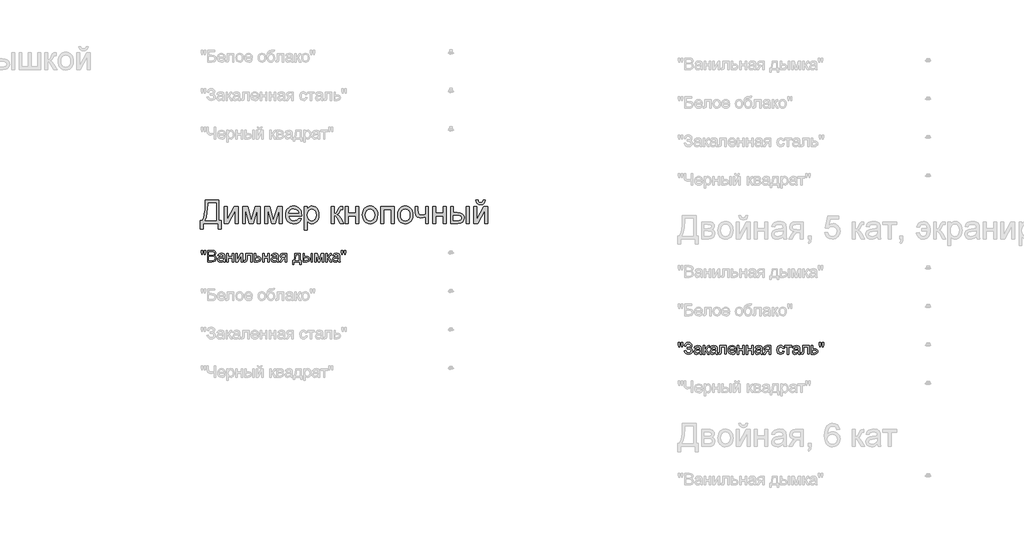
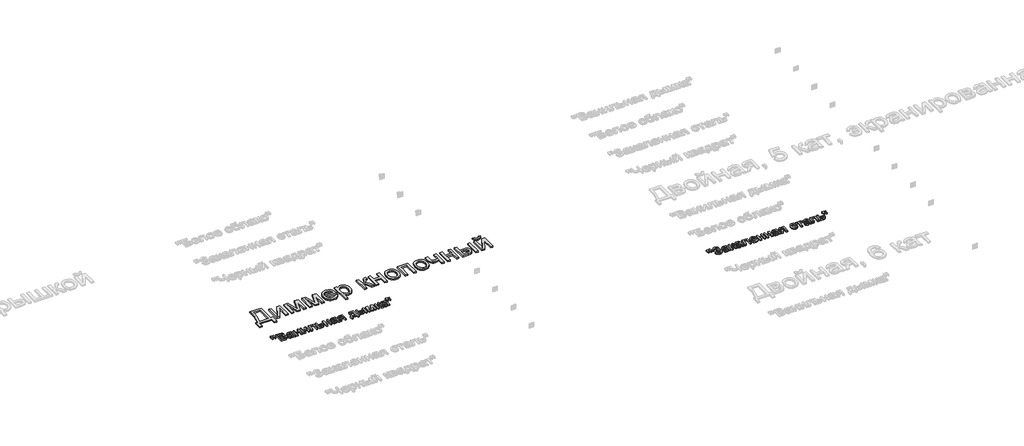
# One storey, part 157 of 168: 3 proxies.
"""IFC4 building model written with IfcOpenShell, lengths in millimetres."""

from ifc_helpers import new_model, si_unit, origin, origin_with_axes, place, context, project, spatial, polyline, outline, extrude, element, save

model = new_model("IFC4")

# Units and contexts
model_context = context("Model", 3, world=origin())
ifc_project = project(units=[si_unit("LENGTHUNIT", "METRE", prefix="MILLI")], contexts=[model_context])

# Site, building, storey
site = spatial("IfcSite", under=ifc_project)
building = spatial("IfcBuilding", under=site)
storey = spatial("IfcBuildingStorey", under=building, Name="Этаж 01", Elevation=0.0)

# Proxies
placement = place(None, origin())
element("IfcBuildingElementProxy", 1, Name="300 мм Arial 2", ObjectType="300 мм Arial 2", at=placement, inside=storey, context=model_context, shape_type="SweptSolid", body=[
    extrude(outline(polyline([(71127.3478389, -10947.0367511), (71306.2856413, -10947.0367511), (71306.2856413, -11210.7345653), (71334.5389786, -11210.7345653), (71334.5389786, -11319.0390246), (71296.8678623, -11319.0390246), (71296.8678623, -11248.4056816), (71103.8033912, -11248.4056816), (71103.8033912, -11319.0390246), (71066.1322749, -11319.0390246), (71066.1322749, -11210.7345653), (71089.6767226, -11210.7345653), (71106.157836, -11176.5629264), (71117.9300598, -11128.4945452), (71124.9933941, -11066.5294217), (71127.3478389, -10990.6675557), (71127.3478389, -10947.0367511)]), holes=[polyline([(71268.614525, -10984.7078674), (71165.0189552, -10984.7078674), (71165.0189552, -10999.8646056), (71157.3670097, -11103.0922935), (71146.0362442, -11162.744359), (71127.3478389, -11210.7345653), (71268.614525, -11210.7345653), (71268.614525, -10984.7078674)])]), origin_with_axes(), (0.0, 0.0, 1.0), 20.0),
    extrude(outline(polyline([(71376.9189844, -11027.0878733), (71414.5901007, -11027.0878733), (71414.5901007, -11195.8721327), (71507.1492107, -11027.0878733), (71555.8567869, -11027.0878733), (71555.8567869, -11248.4056816), (71518.1856706, -11248.4056816), (71518.1856706, -11080.6514918), (71426.2151718, -11248.4056816), (71376.9189844, -11248.4056816), (71376.9189844, -11027.0878733)])), origin_with_axes(), (0.0, 0.0, 1.0), 20.0),
    extrude(outline(polyline([(71612.3634613, -11027.0878733), (71677.1842689, -11027.0878733), (71727.1426438, -11204.2598421), (71781.0005679, -11027.0878733), (71843.0990487, -11027.0878733), (71843.0990487, -11248.4056816), (71805.4279324, -11248.4056816), (71805.4279324, -11070.2036431), (71751.2757027, -11248.4056816), (71701.8323626, -11248.4056816), (71650.0345776, -11061.6687808), (71650.0345776, -11248.4056816), (71612.3634613, -11248.4056816), (71612.3634613, -11027.0878733)])), origin_with_axes(), (0.0, 0.0, 1.0), 20.0),
    extrude(outline(polyline([(71899.6057232, -11027.0878733), (71964.4265307, -11027.0878733), (72014.3849057, -11204.2598421), (72068.2428298, -11027.0878733), (72130.3413105, -11027.0878733), (72130.3413105, -11248.4056816), (72092.6701942, -11248.4056816), (72092.6701942, -11070.2036431), (72038.5179645, -11248.4056816), (71989.0746244, -11248.4056816), (71937.2768395, -11061.6687808), (71937.2768395, -11248.4056816), (71899.6057232, -11248.4056816), (71899.6057232, -11027.0878733)])), origin_with_axes(), (0.0, 0.0, 1.0), 20.0),
    extrude(outline(polyline([(72341.7998814, -11182.481228), (72378.7352337, -11187.1901176), (72365.4271025, -11215.0203905), (72344.1911143, -11235.8241173), (72315.5055158, -11248.7919577), (72279.8485534, -11253.1145711), (72256.4742511, -11251.2498692), (72235.6475317, -11245.6557637), (72217.368395, -11236.3322543), (72201.6368412, -11223.2793413), (72188.9862991, -11206.860308), (72179.9501976, -11187.4384379), (72174.5285367, -11165.013731), (72172.7213164, -11139.5861874), (72174.5469308, -11113.2964203), (72180.023774, -11090.1244531), (72189.151846, -11070.0702859), (72201.9311468, -11053.1339185), (72217.6213139, -11039.6786346), (72235.4819848, -11030.0677174), (72255.5131594, -11024.3011672), (72277.7148378, -11022.3789837), (72299.2014456, -11024.2965686), (72318.6325127, -11030.0493233), (72336.0080392, -11039.6372478), (72351.328025, -11053.0603421), (72363.8337136, -11069.9599213), (72372.7663483, -11089.9773003), (72378.1259291, -11113.1124793), (72379.9124561, -11139.3654582), (72379.6917269, -11149.5190013), (72210.3924327, -11149.5190013), (72216.9131411, -11177.7171562), (72232.0606822, -11198.4473066), (72253.9220698, -11211.1944178), (72280.5843174, -11215.4434548), (72300.6338861, -11213.4752861), (72317.5196697, -11207.5707801), (72331.2416681, -11197.3620547), (72341.7998814, -11182.481228)]), holes=[polyline([(72210.3924327, -11111.847885), (72342.2413398, -11111.847885), (72337.1461741, -11091.945469), (72327.158178, -11077.7084358), (72305.1956228, -11064.464684), (72277.567685, -11060.0501), (72252.1746303, -11063.5725701), (72231.1777654, -11074.1399805), (72216.5820473, -11090.6118968), (72210.3924327, -11111.847885)])]), origin_with_axes(), (0.0, 0.0, 1.0), 20.0),
    extrude(outline(polyline([(72417.5835724, -11333.1656933), (72417.5835724, -11027.0878733), (72455.2546887, -11027.0878733), (72455.2546887, -11064.0232256), (72467.5419473, -11045.8038698), (72481.3007339, -11032.7900442), (72497.3403889, -11024.9817488), (72516.4702527, -11022.3789837), (72541.9460808, -11026.0210155), (72564.2213356, -11036.9471107), (72582.357918, -11054.4950819), (72595.4177288, -11078.0027414), (72603.3087976, -11105.7594379), (72605.9391539, -11136.0545202), (72602.9685068, -11168.271786), (72594.0565655, -11197.0861432), (72579.4884384, -11221.0352611), (72559.5492343, -11238.6568087), (72536.3266834, -11249.5001305), (72511.9085159, -11253.1145711), (72494.590471, -11250.695747), (72479.1302302, -11243.4392746), (72465.8956754, -11232.4855882), (72455.2546887, -11218.975122), (72455.2546887, -11333.1656933), (72417.5835724, -11333.1656933)]), holes=[polyline([(72455.2546887, -11139.512611), (72459.3289818, -11173.2841782), (72471.5518611, -11196.9022022), (72489.5872759, -11210.8081417), (72511.0991755, -11215.4434548), (72532.9605631, -11210.6425948), (72551.4558304, -11196.2400147), (72564.0649858, -11171.7574679), (72568.2680376, -11136.7167078), (72564.1661533, -11103.1290817), (72551.8605006, -11079.1799638), (72533.8526769, -11064.832566), (72512.6442799, -11060.0501), (72491.3531095, -11065.1360686), (72472.655507, -11080.3939744), (72459.6048933, -11105.3455707), (72455.2546887, -11139.512611)])]), origin_with_axes(), (0.0, 0.0, 1.0), 20.0),
    extrude(outline(polyline([(72766.0413982, -11027.0878733), (72803.7125145, -11027.0878733), (72803.7125145, -11121.265664), (72819.0347996, -11119.5734069), (72828.9492194, -11114.4966353), (72837.723205, -11101.2528835), (72849.6241875, -11075.0596854), (72866.8042767, -11041.0306009), (72881.9610149, -11029.9573528), (72909.5153763, -11027.0878733), (72916.7258634, -11027.0878733), (72916.7258634, -11064.9797188), (72906.5723204, -11064.7589896), (72888.1782206, -11068.7321151), (72875.2287744, -11093.5273616), (72860.035248, -11120.345959), (72838.7348804, -11133.4793463), (72850.6726512, -11138.7814455), (72862.5000573, -11148.1394438), (72885.8237758, -11179.0231373), (72926.1436425, -11248.4056816), (72883.3221783, -11248.4056816), (72843.811652, -11180.4946653), (72823.9460242, -11151.7630814), (72814.6570039, -11146.5483542), (72803.7125145, -11144.8101117), (72803.7125145, -11248.4056816), (72766.0413982, -11248.4056816), (72766.0413982, -11027.0878733)])), origin_with_axes(), (0.0, 0.0, 1.0), 20.0),
    extrude(outline(polyline([(72949.6880902, -11027.0878733), (72987.3592065, -11027.0878733), (72987.3592065, -11111.847885), (73086.2458868, -11111.847885), (73086.2458868, -11027.0878733), (73123.9170031, -11027.0878733), (73123.9170031, -11248.4056816), (73086.2458868, -11248.4056816), (73086.2458868, -11149.5190013), (72987.3592065, -11149.5190013), (72987.3592065, -11248.4056816), (72949.6880902, -11248.4056816), (72949.6880902, -11027.0878733)])), origin_with_axes(), (0.0, 0.0, 1.0), 20.0),
    extrude(outline(polyline([(73171.0058985, -11137.7467774), (73173.043045, -11109.0841715), (73179.1544847, -11084.385494), (73189.3402174, -11063.6507451), (73203.6002433, -11046.8799246), (73217.9568381, -11036.160763), (73233.8033551, -11028.504219), (73251.1397941, -11023.9102925), (73269.9661552, -11022.3789837), (73290.7491887, -11024.2436856), (73309.5410608, -11029.8377912), (73326.3417717, -11039.1613005), (73341.1513213, -11052.2142135), (73353.2385441, -11068.5550719), (73361.8722746, -11087.7424172), (73367.052513, -11109.7762495), (73368.7792591, -11134.6565687), (73365.7258385, -11172.7139611), (73356.5655769, -11201.6846682), (73341.5651885, -11223.3805088), (73320.9913879, -11239.6133019), (73296.5548264, -11249.7392538), (73269.9661552, -11253.1145711), (73248.8796191, -11251.256767), (73229.913003, -11245.6833548), (73213.0663069, -11236.3943344), (73198.3395307, -11223.3897059), (73186.3810666, -11206.8901984), (73177.8393066, -11187.1165412), (73172.7142505, -11164.0687342), (73171.0058985, -11137.7467774)]), holes=[polyline([(73208.6770148, -11137.673201), (73213.0364164, -11171.7666649), (73226.1146214, -11196.0560737), (73245.7963081, -11210.5966095), (73269.9661552, -11215.4434548), (73294.0256377, -11210.5690184), (73313.6705362, -11195.9457091), (73326.7487412, -11171.3344036), (73331.1081428, -11136.4959786), (73326.72115, -11103.3957961), (73313.5601716, -11079.4374812), (73293.8876819, -11064.8969453), (73269.9661552, -11060.0501), (73245.7963081, -11064.8785512), (73226.1146214, -11079.3639048), (73213.0364164, -11103.5981312), (73208.6770148, -11137.673201)])]), origin_with_axes(), (0.0, 0.0, 1.0), 20.0),
    extrude(outline(polyline([(73411.1592649, -11027.0878733), (73580.6792883, -11027.0878733), (73580.6792883, -11248.4056816), (73543.008172, -11248.4056816), (73543.008172, -11064.7589896), (73448.8303813, -11064.7589896), (73448.8303813, -11248.4056816), (73411.1592649, -11248.4056816), (73411.1592649, -11027.0878733)])), origin_with_axes(), (0.0, 0.0, 1.0), 20.0),
    extrude(outline(polyline([(73627.7681837, -11137.7467774), (73629.8053303, -11109.0841715), (73635.9167699, -11084.385494), (73646.1025026, -11063.6507451), (73660.3625285, -11046.8799246), (73674.7191233, -11036.160763), (73690.5656403, -11028.504219), (73707.9020793, -11023.9102925), (73726.7284404, -11022.3789837), (73747.5114739, -11024.2436856), (73766.303346, -11029.8377912), (73783.1040569, -11039.1613005), (73797.9136065, -11052.2142135), (73810.0008293, -11068.5550719), (73818.6345599, -11087.7424172), (73823.8147982, -11109.7762495), (73825.5415443, -11134.6565687), (73822.4881238, -11172.7139611), (73813.3278621, -11201.6846682), (73798.3274737, -11223.3805088), (73777.7536731, -11239.6133019), (73753.3171116, -11249.7392538), (73726.7284404, -11253.1145711), (73705.6419043, -11251.256767), (73686.6752882, -11245.6833548), (73669.8285921, -11236.3943344), (73655.1018159, -11223.3897059), (73643.1433518, -11206.8901984), (73634.6015918, -11187.1165412), (73629.4765357, -11164.0687342), (73627.7681837, -11137.7467774)]), holes=[polyline([(73665.4393, -11137.673201), (73669.7987017, -11171.7666649), (73682.8769066, -11196.0560737), (73702.5585933, -11210.5966095), (73726.7284404, -11215.4434548), (73750.7879229, -11210.5690184), (73770.4328214, -11195.9457091), (73783.5110264, -11171.3344036), (73787.870428, -11136.4959786), (73783.4834352, -11103.3957961), (73770.3224568, -11079.4374812), (73750.6499671, -11064.8969453), (73726.7284404, -11060.0501), (73702.5585933, -11064.8785512), (73682.8769066, -11079.3639048), (73669.7987017, -11103.5981312), (73665.4393, -11137.673201)])]), origin_with_axes(), (0.0, 0.0, 1.0), 20.0),
    extrude(outline(polyline([(73853.7948815, -11027.0878733), (73891.4659978, -11027.0878733), (73891.4659978, -11069.5414555), (73894.5194184, -11109.3462874), (73899.7157516, -11120.9161761), (73909.19791, -11130.9041723), (73922.294509, -11137.8019597), (73938.334164, -11140.1012222), (73961.381971, -11137.2501367), (73990.3526782, -11128.6968803), (73990.3526782, -11027.0878733), (74028.0237945, -11027.0878733), (74028.0237945, -11248.4056816), (73990.3526782, -11248.4056816), (73990.3526782, -11164.8228923), (73958.1997918, -11174.5349769), (73928.2541974, -11177.7723385), (73905.4731048, -11174.3970212), (73885.5430977, -11164.2710693), (73870.0092805, -11149.2522868), (73860.4167575, -11131.1984779), (73855.4503505, -11110.6522685), (73853.7948815, -11088.1562845), (73853.7948815, -11027.0878733)])), origin_with_axes(), (0.0, 0.0, 1.0), 20.0),
    extrude(outline(polyline([(74084.5304689, -11027.0878733), (74122.2015852, -11027.0878733), (74122.2015852, -11111.847885), (74221.0882655, -11111.847885), (74221.0882655, -11027.0878733), (74258.7593818, -11027.0878733), (74258.7593818, -11248.4056816), (74221.0882655, -11248.4056816), (74221.0882655, -11149.5190013), (74122.2015852, -11149.5190013), (74122.2015852, -11248.4056816), (74084.5304689, -11248.4056816), (74084.5304689, -11027.0878733)])), origin_with_axes(), (0.0, 0.0, 1.0), 20.0),
    extrude(outline(polyline([(74522.457196, -11027.0878733), (74560.1283123, -11027.0878733), (74560.1283123, -11248.4056816), (74522.457196, -11248.4056816), (74522.457196, -11027.0878733)])), origin_with_axes(), (0.0, 0.0, 1.0), 20.0),
    extrude(outline(polyline([(74315.2660563, -11027.0878733), (74352.9371726, -11027.0878733), (74352.9371726, -11107.1389954), (74399.5110332, -11107.1389954), (74439.7665205, -11111.857082), (74455.9832187, -11117.7546902), (74469.5925533, -11126.0113418), (74480.3599994, -11136.3419281), (74488.0510324, -11148.4613405), (74492.6656522, -11162.3695792), (74494.2038587, -11178.0666441), (74489.0443138, -11205.0231973), (74473.5656788, -11227.7675016), (74461.7037837, -11236.7967054), (74446.7562784, -11243.2461366), (74407.6044371, -11248.4056816), (74315.2660563, -11248.4056816), (74315.2660563, -11027.0878733)]), holes=[polyline([(74352.9371726, -11210.7345653), (74391.6383585, -11210.7345653), (74421.6391352, -11208.7571995), (74441.5967334, -11202.8251024), (74452.7987402, -11192.6991504), (74456.5327424, -11178.1402205), (74453.7644304, -11165.8345678), (74445.4594944, -11154.9636548), (74427.6999911, -11147.3484975), (74396.5679772, -11144.8101117), (74352.9371726, -11144.8101117), (74352.9371726, -11210.7345653)])]), origin_with_axes(), (0.0, 0.0, 1.0), 20.0),
    extrude(outline(polyline([(74616.6349867, -11027.0878733), (74654.306103, -11027.0878733), (74654.306103, -11195.8721327), (74746.865213, -11027.0878733), (74795.5727892, -11027.0878733), (74795.5727892, -11248.4056816), (74757.9016729, -11248.4056816), (74757.9016729, -11080.6514918), (74665.9311741, -11248.4056816), (74616.6349867, -11248.4056816), (74616.6349867, -11027.0878733)])), origin_with_axes(), (0.0, 0.0, 1.0), 20.0),
    extrude(outline(polyline([(74739.0661147, -10947.0367511), (74767.319452, -10947.0367511), (74761.240202, -10971.160613), (74749.0357168, -10988.9385104), (74731.2578194, -10999.8921968), (74708.4583327, -11003.5434256), (74683.7182686, -10999.9197879), (74664.5332225, -10989.048875), (74651.4182294, -10971.2985687), (74644.888324, -10947.0367511), (74673.1416612, -10947.0367511), (74677.1147867, -10959.4435714), (74683.7366627, -10968.2635422), (74693.0440771, -10973.5334518), (74705.0738184, -10975.2900883), (74718.648664, -10973.5886341), (74728.4711133, -10968.4842714), (74735.0929892, -10959.7194829), (74739.0661147, -10947.0367511)])), origin_with_axes(), (0.0, 0.0, 1.0), 20.0),
])
element("IfcBuildingElementProxy", 2, Name="150", ObjectType="150", at=placement, inside=storey, context=model_context, shape_type="SweptSolid", body=[
    extrude(outline(polyline([(71080.1485789, -11651.873446), (71075.550054, -11622.7739802), (71075.550054, -11597.7212163), (71094.3856121, -11597.7212163), (71094.3856121, -11622.7739802), (71090.2653338, -11651.873446), (71080.1485789, -11651.873446)])), origin_with_axes(), (0.0, 0.0, 1.0), 20.0),
    extrude(outline(polyline([(71117.7093306, -11651.873446), (71113.2211703, -11622.7739802), (71113.2211703, -11597.7212163), (71132.0567284, -11597.7212163), (71132.0567284, -11622.7739802), (71127.6421445, -11651.873446), (71117.7093306, -11651.873446)])), origin_with_axes(), (0.0, 0.0, 1.0), 20.0),
    extrude(outline(polyline([(71157.9556209, -11748.4056816), (71157.9556209, -11597.7212163), (71215.4555767, -11597.7212163), (71243.6169435, -11602.1541944), (71253.0807078, -11607.7781904), (71260.2452096, -11615.7842223), (71266.2600803, -11635.0612389), (71261.2017028, -11652.6643923), (71245.9162059, -11666.0001146), (71256.5893823, -11671.5735269), (71264.4758526, -11680.0532069), (71269.3456905, -11690.8781346), (71270.9689698, -11703.48729), (71266.5359918, -11723.7391938), (71255.5547142, -11738.160168), (71239.1655713, -11745.8121135), (71215.0141183, -11748.4056816), (71157.9556209, -11748.4056816)]), holes=[polyline([(71176.791179, -11658.9367803), (71211.1881456, -11658.9367803), (71231.2745025, -11657.3180996), (71243.3594261, -11650.3467358), (71247.4245221, -11638.0778712), (71243.6353376, -11625.7906126), (71232.7828187, -11618.5249432), (71208.5761834, -11616.5567745), (71176.791179, -11616.5567745), (71176.791179, -11658.9367803)]), polyline([(71176.791179, -11729.5701234), (71215.4187885, -11729.5701234), (71229.3983043, -11728.8343594), (71241.2257105, -11724.7324752), (71249.061597, -11716.3631598), (71252.1334117, -11703.671231), (71248.5281681, -11689.0295275), (71236.8479148, -11680.2923302), (71213.5793786, -11677.7723385), (71176.791179, -11677.7723385), (71176.791179, -11729.5701234)])]), origin_with_axes(), (0.0, 0.0, 1.0), 20.0),
    extrude(outline(polyline([(71365.1467606, -11734.279013), (71346.8814195, -11747.0445182), (71326.7030921, -11750.7601263), (71310.9623412, -11748.5252432), (71299.3510657, -11741.8205939), (71292.1911624, -11731.6394596), (71289.804528, -11718.975122), (71293.4097715, -11704.0759012), (71302.8827329, -11693.2601705), (71316.0713024, -11687.079753), (71332.3684748, -11684.2470616), (71365.036396, -11677.7723385), (71365.1467606, -11673.5784838), (71363.8499765, -11665.1723802), (71359.9596244, -11659.6725443), (71351.2592153, -11655.5890542), (71339.1375035, -11654.2278908), (71320.0812162, -11657.8515285), (71310.9945309, -11670.7090042), (71292.1589727, -11668.3545594), (71300.3075589, -11649.9604597), (71316.7150959, -11639.1815172), (71341.5655247, -11635.3923327), (71364.3926025, -11638.7400588), (71377.2868664, -11647.1461624), (71383.0626137, -11659.9300617), (71383.9823187, -11676.4111751), (71383.9823187, -11699.8452582), (71384.9388119, -11732.5683617), (71388.6912083, -11748.4056816), (71369.8556501, -11748.4056816), (71365.1467606, -11734.279013)]), holes=[polyline([(71365.1467606, -11696.6078966), (71334.7597078, -11702.383644), (71318.5545059, -11705.4370645), (71311.2152601, -11710.4034715), (71308.6400861, -11717.6507468), (71314.2502865, -11727.841078), (71330.7130058, -11731.9245682), (71349.7692932, -11727.4180137), (71362.0565518, -11716.5103126), (71365.036396, -11701.9421856), (71365.1467606, -11696.6078966)])]), origin_with_axes(), (0.0, 0.0, 1.0), 20.0),
    extrude(outline(polyline([(71409.8812112, -11637.7467774), (71428.7167693, -11637.7467774), (71428.7167693, -11680.1267833), (71478.1601095, -11680.1267833), (71478.1601095, -11637.7467774), (71496.9956676, -11637.7467774), (71496.9956676, -11748.4056816), (71478.1601095, -11748.4056816), (71478.1601095, -11698.9623414), (71428.7167693, -11698.9623414), (71428.7167693, -11748.4056816), (71409.8812112, -11748.4056816), (71409.8812112, -11637.7467774)])), origin_with_axes(), (0.0, 0.0, 1.0), 20.0),
    extrude(outline(polyline([(71525.2490049, -11637.7467774), (71544.084563, -11637.7467774), (71544.084563, -11722.1389071), (71590.364118, -11637.7467774), (71614.7179061, -11637.7467774), (71614.7179061, -11748.4056816), (71595.8823479, -11748.4056816), (71595.8823479, -11664.5285867), (71549.8970985, -11748.4056816), (71525.2490049, -11748.4056816), (71525.2490049, -11637.7467774)])), origin_with_axes(), (0.0, 0.0, 1.0), 20.0),
    extrude(outline(polyline([(71652.3890224, -11637.7467774), (71737.1490341, -11637.7467774), (71737.1490341, -11748.295317), (71718.3134759, -11748.295317), (71718.3134759, -11656.5823356), (71671.2245806, -11656.5823356), (71671.2245806, -11709.3734019), (71669.9553877, -11733.72719), (71662.9840239, -11744.0094917), (71646.5029105, -11748.4056816), (71631.1990195, -11747.4491884), (71631.1990195, -11729.5701234), (71639.6235172, -11729.5701234), (71648.1399854, -11728.4112951), (71651.5428938, -11724.7324752), (71652.3890224, -11708.3065441), (71652.3890224, -11637.7467774)])), origin_with_axes(), (0.0, 0.0, 1.0), 20.0),
    extrude(outline(polyline([(71765.4023713, -11637.7467774), (71784.2379295, -11637.7467774), (71784.2379295, -11677.7723385), (71805.9429672, -11677.7723385), (71824.7601312, -11680.1313818), (71838.6844648, -11687.2085117), (71847.2929034, -11698.433511), (71850.162383, -11713.2361628), (71847.7205663, -11726.7144394), (71840.395116, -11738.0865916), (71827.6985887, -11745.8259091), (71809.1435405, -11748.4056816), (71765.4023713, -11748.4056816), (71765.4023713, -11637.7467774)]), holes=[polyline([(71784.2379295, -11729.5701234), (71801.8226888, -11729.5701234), (71824.539402, -11725.615392), (71829.6299692, -11720.552416), (71831.3268249, -11713.272951), (71826.3052356, -11701.6846682), (71818.2348244, -11697.8770895), (71804.066769, -11696.6078966), (71784.2379295, -11696.6078966), (71784.2379295, -11729.5701234)])]), origin_with_axes(), (0.0, 0.0, 1.0), 20.0),
    extrude(outline(polyline([(71873.7068307, -11637.7467774), (71892.5423889, -11637.7467774), (71892.5423889, -11680.1267833), (71941.985729, -11680.1267833), (71941.985729, -11637.7467774), (71960.8212872, -11637.7467774), (71960.8212872, -11748.4056816), (71941.985729, -11748.4056816), (71941.985729, -11698.9623414), (71892.5423889, -11698.9623414), (71892.5423889, -11748.4056816), (71873.7068307, -11748.4056816), (71873.7068307, -11637.7467774)])), origin_with_axes(), (0.0, 0.0, 1.0), 20.0),
    extrude(outline(polyline([(72059.7079675, -11734.279013), (72041.4426264, -11747.0445182), (72021.264299, -11750.7601263), (72005.5235481, -11748.5252432), (71993.9122726, -11741.8205939), (71986.7523693, -11731.6394596), (71984.3657349, -11718.975122), (71987.9709784, -11704.0759012), (71997.4439398, -11693.2601705), (72010.6325093, -11687.079753), (72026.9296817, -11684.2470616), (72059.5976029, -11677.7723385), (72059.7079675, -11673.5784838), (72058.4111834, -11665.1723802), (72054.5208313, -11659.6725443), (72045.8204221, -11655.5890542), (72033.6987104, -11654.2278908), (72014.6424231, -11657.8515285), (72005.5557378, -11670.7090042), (71986.7201796, -11668.3545594), (71994.8687658, -11649.9604597), (72011.2763028, -11639.1815172), (72036.1267316, -11635.3923327), (72058.9538094, -11638.7400588), (72071.8480733, -11647.1461624), (72077.6238206, -11659.9300617), (72078.5435256, -11676.4111751), (72078.5435256, -11699.8452582), (72079.5000188, -11732.5683617), (72083.2524152, -11748.4056816), (72064.416857, -11748.4056816), (72059.7079675, -11734.279013)]), holes=[polyline([(72059.7079675, -11696.6078966), (72029.3209147, -11702.383644), (72013.1157128, -11705.4370645), (72005.776467, -11710.4034715), (72003.201293, -11717.6507468), (72008.8114934, -11727.841078), (72025.2742127, -11731.9245682), (72044.3305001, -11727.4180137), (72056.6177587, -11716.5103126), (72059.5976029, -11701.9421856), (72059.7079675, -11696.6078966)])]), origin_with_axes(), (0.0, 0.0, 1.0), 20.0),
    extrude(outline(polyline([(72189.2024298, -11637.7467774), (72189.2024298, -11748.4056816), (72170.3668716, -11748.4056816), (72170.3668716, -11706.0256757), (72160.1029639, -11706.0256757), (72146.1234481, -11708.4169087), (72132.9900609, -11724.4933519), (72117.9804755, -11748.4056816), (72096.2018614, -11748.4056816), (72115.1109959, -11718.1657816), (72123.4619172, -11707.3132627), (72131.1506509, -11702.4940086), (72118.2747811, -11698.5484742), (72109.224884, -11691.0528785), (72103.872201, -11681.0832765), (72102.0879733, -11669.7157228), (72104.5251915, -11656.8214589), (72111.8368462, -11646.6127335), (72123.7654199, -11639.9632664), (72140.0533952, -11637.7467774), (72189.2024298, -11637.7467774)]), holes=[polyline([(72170.3668716, -11656.5823356), (72145.5348369, -11656.5823356), (72132.7095509, -11657.672186), (72125.4300859, -11660.9417372), (72120.9235315, -11671.1504626), (72122.583599, -11678.32876), (72127.5638015, -11683.3089625), (72151.0898551, -11687.1901176), (72170.3668716, -11687.1901176), (72170.3668716, -11656.5823356)])]), origin_with_axes(), (0.0, 0.0, 1.0), 20.0),
    extrude(outline(polyline([(72292.7979996, -11637.7467774), (72363.4313427, -11637.7467774), (72363.4313427, -11729.5701234), (72377.5580113, -11729.5701234), (72377.5580113, -11779.0134636), (72358.7224531, -11779.0134636), (72358.7224531, -11748.4056816), (72281.0257758, -11748.4056816), (72281.0257758, -11779.0134636), (72262.1902176, -11779.0134636), (72262.1902176, -11729.5701234), (72273.9624415, -11729.5701234), (72282.5202964, -11714.105284), (72288.5121744, -11693.6464466), (72292.7979996, -11637.7467774)]), holes=[polyline([(72309.279113, -11656.5823356), (72304.864529, -11699.4957703), (72295.1524444, -11729.5701234), (72344.5957845, -11729.5701234), (72344.5957845, -11656.5823356), (72309.279113, -11656.5823356)])]), origin_with_axes(), (0.0, 0.0, 1.0), 20.0),
    extrude(outline(polyline([(72502.3435841, -11637.7467774), (72521.1791422, -11637.7467774), (72521.1791422, -11748.4056816), (72502.3435841, -11748.4056816), (72502.3435841, -11637.7467774)])), origin_with_axes(), (0.0, 0.0, 1.0), 20.0),
    extrude(outline(polyline([(72398.7480142, -11637.7467774), (72417.5835724, -11637.7467774), (72417.5835724, -11677.7723385), (72440.8705027, -11677.7723385), (72460.9982463, -11680.1313818), (72475.9112627, -11687.2085117), (72485.1405023, -11698.433511), (72488.2169154, -11713.2361628), (72485.637143, -11726.7144394), (72477.8978255, -11738.0865916), (72464.4931253, -11745.8259091), (72444.9172046, -11748.4056816), (72398.7480142, -11748.4056816), (72398.7480142, -11637.7467774)]), holes=[polyline([(72417.5835724, -11729.5701234), (72436.9341653, -11729.5701234), (72461.9133528, -11725.615392), (72467.5143562, -11720.552416), (72469.3813573, -11713.272951), (72463.8447333, -11701.6846682), (72454.9649816, -11697.8770895), (72439.3989747, -11696.6078966), (72417.5835724, -11696.6078966), (72417.5835724, -11729.5701234)])]), origin_with_axes(), (0.0, 0.0, 1.0), 20.0),
    extrude(outline(polyline([(72549.4324794, -11637.7467774), (72581.8428832, -11637.7467774), (72606.8220707, -11726.3327619), (72633.7510327, -11637.7467774), (72664.8002731, -11637.7467774), (72664.8002731, -11748.4056816), (72645.964715, -11748.4056816), (72645.964715, -11659.3046623), (72618.8886001, -11748.4056816), (72594.1669301, -11748.4056816), (72568.2680376, -11655.0372312), (72568.2680376, -11748.4056816), (72549.4324794, -11748.4056816), (72549.4324794, -11637.7467774)])), origin_with_axes(), (0.0, 0.0, 1.0), 20.0),
    extrude(outline(polyline([(72693.0536104, -11637.7467774), (72711.8891685, -11637.7467774), (72711.8891685, -11684.8356728), (72724.5075209, -11681.4511584), (72734.845005, -11661.7326835), (72743.4350496, -11644.7181412), (72751.0134187, -11639.1815172), (72764.7905994, -11637.7467774), (72768.395843, -11637.7467774), (72768.395843, -11656.6927002), (72763.3190714, -11656.5823356), (72754.1220216, -11658.5688983), (72747.6472984, -11670.9665216), (72740.0505352, -11684.3758203), (72729.4003515, -11690.9425139), (72741.2829399, -11698.2725627), (72752.9447992, -11713.7144094), (72773.1047325, -11748.4056816), (72751.6940004, -11748.4056816), (72731.9387373, -11714.4501734), (72722.0059234, -11700.0843815), (72711.8891685, -11696.6078966), (72711.8891685, -11748.4056816), (72693.0536104, -11748.4056816), (72693.0536104, -11637.7467774)])), origin_with_axes(), (0.0, 0.0, 1.0), 20.0),
    extrude(outline(polyline([(72855.5102994, -11734.279013), (72837.2449584, -11747.0445182), (72817.0666309, -11750.7601263), (72801.3258801, -11748.5252432), (72789.7146046, -11741.8205939), (72782.5547013, -11731.6394596), (72780.1680668, -11718.975122), (72783.7733104, -11704.0759012), (72793.2462717, -11693.2601705), (72806.4348413, -11687.079753), (72822.7320137, -11684.2470616), (72855.3999348, -11677.7723385), (72855.5102994, -11673.5784838), (72854.2135154, -11665.1723802), (72850.3231633, -11659.6725443), (72841.6227541, -11655.5890542), (72829.5010424, -11654.2278908), (72810.444755, -11657.8515285), (72801.3580697, -11670.7090042), (72782.5225116, -11668.3545594), (72790.6710978, -11649.9604597), (72807.0786348, -11639.1815172), (72831.9290635, -11635.3923327), (72854.7561413, -11638.7400588), (72867.6504053, -11647.1461624), (72873.4261526, -11659.9300617), (72874.3458576, -11676.4111751), (72874.3458576, -11699.8452582), (72875.3023508, -11732.5683617), (72879.0547471, -11748.4056816), (72860.219189, -11748.4056816), (72855.5102994, -11734.279013)]), holes=[polyline([(72855.5102994, -11696.6078966), (72825.1232466, -11702.383644), (72808.9180447, -11705.4370645), (72801.5787989, -11710.4034715), (72799.003625, -11717.6507468), (72804.6138254, -11727.841078), (72821.0765447, -11731.9245682), (72840.132832, -11727.4180137), (72852.4200907, -11716.5103126), (72855.3999348, -11701.9421856), (72855.5102994, -11696.6078966)])]), origin_with_axes(), (0.0, 0.0, 1.0), 20.0),
    extrude(outline(polyline([(72900.1343854, -11651.873446), (72895.5358605, -11622.7739802), (72895.5358605, -11597.7212163), (72914.3714187, -11597.7212163), (72914.3714187, -11622.7739802), (72910.2511403, -11651.873446), (72900.1343854, -11651.873446)])), origin_with_axes(), (0.0, 0.0, 1.0), 20.0),
    extrude(outline(polyline([(72937.6951372, -11651.873446), (72933.2069768, -11622.7739802), (72933.2069768, -11597.7212163), (72952.042535, -11597.7212163), (72952.042535, -11622.7739802), (72947.627951, -11651.873446), (72937.6951372, -11651.873446)])), origin_with_axes(), (0.0, 0.0, 1.0), 20.0),
])
element("IfcBuildingElementProxy", 3, Name="150", ObjectType="150", at=placement, inside=storey, context=model_context, shape_type="SweptSolid", body=[
    extrude(outline(polyline([(77280.1485789, -12851.873446), (77275.550054, -12822.7739802), (77275.550054, -12797.7212163), (77294.3856121, -12797.7212163), (77294.3856121, -12822.7739802), (77290.2653338, -12851.873446), (77280.1485789, -12851.873446)])), origin_with_axes(), (0.0, 0.0, 1.0), 20.0),
    extrude(outline(polyline([(77317.7093306, -12851.873446), (77313.2211703, -12822.7739802), (77313.2211703, -12797.7212163), (77332.0567284, -12797.7212163), (77332.0567284, -12822.7739802), (77327.6421445, -12851.873446), (77317.7093306, -12851.873446)])), origin_with_axes(), (0.0, 0.0, 1.0), 20.0),
    extrude(outline(polyline([(77350.8922866, -12906.0256757), (77369.7278447, -12901.3167862), (77381.2977335, -12921.7158428), (77392.2284273, -12929.3723868), (77406.2217387, -12931.9245682), (77420.398991, -12930.0069833), (77431.2193202, -12924.2542286), (77438.0757209, -12915.7883442), (77440.3611878, -12905.7313701), (77437.8641888, -12895.1961495), (77430.3731916, -12887.0613589), (77418.5779752, -12881.8604272), (77403.1683181, -12880.1267833), (77393.2722924, -12880.1267833), (77393.2722924, -12861.2912251), (77414.591054, -12859.7645148), (77427.6324708, -12851.9654165), (77433.2978535, -12837.7099892), (77431.4124583, -12828.8394346), (77425.7562726, -12821.2104817), (77416.8811195, -12815.9543677), (77405.3388219, -12814.2023297), (77386.1169876, -12819.591801), (77375.117316, -12833.8840165), (77372.0822895, -12847.1645565), (77353.2467313, -12842.455667), (77359.0983543, -12821.8542752), (77369.7002536, -12807.1389954), (77385.0524291, -12798.3098275), (77405.1548809, -12795.3667716), (77424.5468605, -12798.4247907), (77439.4598769, -12807.5988479), (77448.965028, -12820.8655924), (77452.1334117, -12836.201673), (77447.2037929, -12854.8440931), (77432.4149367, -12868.7592296), (77442.8903765, -12873.5830823), (77451.5080123, -12881.7270699), (77457.2745625, -12892.4922168), (77459.196746, -12905.1795471), (77455.508729, -12923.0172254), (77444.444678, -12937.6819214), (77427.2921799, -12947.4905751), (77405.3388219, -12950.7601263), (77386.2365493, -12947.9642232), (77370.7947025, -12939.5765137), (77359.0132816, -12925.5969979), (77350.8922866, -12906.0256757)])), origin_with_axes(), (0.0, 0.0, 1.0), 20.0),
    extrude(outline(polyline([(77553.3745367, -12934.279013), (77535.1091957, -12947.0445182), (77514.9308682, -12950.7601263), (77499.1901174, -12948.5252432), (77487.5788419, -12941.8205939), (77480.4189386, -12931.6394596), (77478.0323041, -12918.975122), (77481.6375477, -12904.0759012), (77491.110509, -12893.2601705), (77504.2990786, -12887.079753), (77520.596251, -12884.2470616), (77553.2641721, -12877.7723385), (77553.3745367, -12873.5784838), (77552.0777527, -12865.1723802), (77548.1874006, -12859.6725443), (77539.4869914, -12855.5890542), (77527.3652797, -12854.2278908), (77508.3089923, -12857.8515285), (77499.222307, -12870.7090042), (77480.3867489, -12868.3545594), (77488.5353351, -12849.9604597), (77504.9428721, -12839.1815172), (77529.7933008, -12835.3923327), (77552.6203786, -12838.7400588), (77565.5146426, -12847.1461624), (77571.2903899, -12859.9300617), (77572.2100949, -12876.4111751), (77572.2100949, -12899.8452582), (77573.1665881, -12932.5683617), (77576.9189844, -12948.4056816), (77558.0834263, -12948.4056816), (77553.3745367, -12934.279013)]), holes=[polyline([(77553.3745367, -12896.6078966), (77522.9874839, -12902.383644), (77506.782282, -12905.4370645), (77499.4430362, -12910.4034715), (77496.8678623, -12917.6507468), (77502.4780627, -12927.841078), (77518.940782, -12931.9245682), (77537.9970693, -12927.4180137), (77550.284328, -12916.5103126), (77553.2641721, -12901.9421856), (77553.3745367, -12896.6078966)])]), origin_with_axes(), (0.0, 0.0, 1.0), 20.0),
    extrude(outline(polyline([(77598.1089873, -12837.7467774), (77616.9445455, -12837.7467774), (77616.9445455, -12884.8356728), (77629.5628979, -12881.4511584), (77639.900382, -12861.7326835), (77648.4904266, -12844.7181412), (77656.0687957, -12839.1815172), (77669.8459764, -12837.7467774), (77673.4512199, -12837.7467774), (77673.4512199, -12856.6927002), (77668.3744484, -12856.5823356), (77659.1773985, -12858.5688983), (77652.7026754, -12870.9665216), (77645.1059122, -12884.3758203), (77634.4557285, -12890.9425139), (77646.3383169, -12898.2725627), (77658.0001762, -12913.7144094), (77678.1601095, -12948.4056816), (77656.7493774, -12948.4056816), (77636.9941142, -12914.4501734), (77627.0613004, -12900.0843815), (77616.9445455, -12896.6078966), (77616.9445455, -12948.4056816), (77598.1089873, -12948.4056816), (77598.1089873, -12837.7467774)])), origin_with_axes(), (0.0, 0.0, 1.0), 20.0),
    extrude(outline(polyline([(77760.5656764, -12934.279013), (77742.3003353, -12947.0445182), (77722.1220079, -12950.7601263), (77706.381257, -12948.5252432), (77694.7699816, -12941.8205939), (77687.6100782, -12931.6394596), (77685.2234438, -12918.975122), (77688.8286873, -12904.0759012), (77698.3016487, -12893.2601705), (77711.4902183, -12887.079753), (77727.7873906, -12884.2470616), (77760.4553118, -12877.7723385), (77760.5656764, -12873.5784838), (77759.2688924, -12865.1723802), (77755.3785403, -12859.6725443), (77746.6781311, -12855.5890542), (77734.5564193, -12854.2278908), (77715.500132, -12857.8515285), (77706.4134467, -12870.7090042), (77687.5778886, -12868.3545594), (77695.7264748, -12849.9604597), (77712.1340117, -12839.1815172), (77736.9844405, -12835.3923327), (77759.8115183, -12838.7400588), (77772.7057822, -12847.1461624), (77778.4815296, -12859.9300617), (77779.4012346, -12876.4111751), (77779.4012346, -12899.8452582), (77780.3577277, -12932.5683617), (77784.1101241, -12948.4056816), (77765.2745659, -12948.4056816), (77760.5656764, -12934.279013)]), holes=[polyline([(77760.5656764, -12896.6078966), (77730.1786236, -12902.383644), (77713.9734217, -12905.4370645), (77706.6341759, -12910.4034715), (77704.0590019, -12917.6507468), (77709.6692024, -12927.841078), (77726.1319217, -12931.9245682), (77745.188209, -12927.4180137), (77757.4754676, -12916.5103126), (77760.4553118, -12901.9421856), (77760.5656764, -12896.6078966)])]), origin_with_axes(), (0.0, 0.0, 1.0), 20.0),
    extrude(outline(polyline([(77814.7179061, -12837.7467774), (77899.4779178, -12837.7467774), (77899.4779178, -12948.295317), (77880.6423596, -12948.295317), (77880.6423596, -12856.5823356), (77833.5534643, -12856.5823356), (77833.5534643, -12909.3734019), (77832.2842714, -12933.72719), (77825.3129076, -12944.0094917), (77808.8317942, -12948.4056816), (77793.5279032, -12947.4491884), (77793.5279032, -12929.5701234), (77801.9524009, -12929.5701234), (77810.4688691, -12928.4112951), (77813.8717775, -12924.7324752), (77814.7179061, -12908.3065441), (77814.7179061, -12837.7467774)])), origin_with_axes(), (0.0, 0.0, 1.0), 20.0),
    extrude(outline(polyline([(78005.2072032, -12915.4434548), (78023.6748794, -12917.7978996), (78017.0208138, -12931.713036), (78006.4028197, -12942.1148995), (77992.0600204, -12948.5988196), (77974.2315392, -12950.7601263), (77952.1310283, -12947.0307226), (77935.1256831, -12935.8425114), (77924.2823613, -12917.9220597), (77920.6679207, -12893.9959345), (77924.3191495, -12869.2650674), (77935.2728359, -12850.7698), (77952.0482549, -12839.2366995), (77973.1646814, -12835.3923327), (77993.6235189, -12839.2275025), (78009.971275, -12850.7330118), (78020.6904367, -12869.191491), (78024.2634906, -12893.8855699), (78024.153126, -12898.9623414), (77939.5034789, -12898.9623414), (77942.763833, -12913.0614189), (77950.3376036, -12923.4264941), (77961.2682974, -12929.8000497), (77974.5994212, -12931.9245682), (77993.0670974, -12927.9882308), (78005.2072032, -12915.4434548)]), holes=[polyline([(77939.5034789, -12880.1267833), (78005.4279324, -12880.1267833), (78002.8803496, -12870.1755753), (77997.8863515, -12863.0570587), (77986.9050739, -12856.4351828), (77973.091105, -12854.2278908), (77960.3945777, -12855.9891259), (77949.8961452, -12861.272831), (77942.5982861, -12869.5087892), (77939.5034789, -12880.1267833)])]), origin_with_axes(), (0.0, 0.0, 1.0), 20.0),
    extrude(outline(polyline([(78043.0990487, -12837.7467774), (78061.9346069, -12837.7467774), (78061.9346069, -12880.1267833), (78111.377947, -12880.1267833), (78111.377947, -12837.7467774), (78130.2135052, -12837.7467774), (78130.2135052, -12948.4056816), (78111.377947, -12948.4056816), (78111.377947, -12898.9623414), (78061.9346069, -12898.9623414), (78061.9346069, -12948.4056816), (78043.0990487, -12948.4056816), (78043.0990487, -12837.7467774)])), origin_with_axes(), (0.0, 0.0, 1.0), 20.0),
    extrude(outline(polyline([(78158.4668424, -12837.7467774), (78177.3024005, -12837.7467774), (78177.3024005, -12880.1267833), (78226.7457407, -12880.1267833), (78226.7457407, -12837.7467774), (78245.5812988, -12837.7467774), (78245.5812988, -12948.4056816), (78226.7457407, -12948.4056816), (78226.7457407, -12898.9623414), (78177.3024005, -12898.9623414), (78177.3024005, -12948.4056816), (78158.4668424, -12948.4056816), (78158.4668424, -12837.7467774)])), origin_with_axes(), (0.0, 0.0, 1.0), 20.0),
    extrude(outline(polyline([(78344.4679792, -12934.279013), (78326.2026381, -12947.0445182), (78306.0243107, -12950.7601263), (78290.2835598, -12948.5252432), (78278.6722843, -12941.8205939), (78271.512381, -12931.6394596), (78269.1257465, -12918.975122), (78272.7309901, -12904.0759012), (78282.2039515, -12893.2601705), (78295.392521, -12887.079753), (78311.6896934, -12884.2470616), (78344.3576146, -12877.7723385), (78344.4679792, -12873.5784838), (78343.1711951, -12865.1723802), (78339.280843, -12859.6725443), (78330.5804338, -12855.5890542), (78318.4587221, -12854.2278908), (78299.4024347, -12857.8515285), (78290.3157495, -12870.7090042), (78271.4801913, -12868.3545594), (78279.6287775, -12849.9604597), (78296.0363145, -12839.1815172), (78320.8867433, -12835.3923327), (78343.7138211, -12838.7400588), (78356.608085, -12847.1461624), (78362.3838323, -12859.9300617), (78363.3035373, -12876.4111751), (78363.3035373, -12899.8452582), (78364.2600305, -12932.5683617), (78368.0124268, -12948.4056816), (78349.1768687, -12948.4056816), (78344.4679792, -12934.279013)]), holes=[polyline([(78344.4679792, -12896.6078966), (78314.0809264, -12902.383644), (78297.8757245, -12905.4370645), (78290.5364787, -12910.4034715), (78287.9613047, -12917.6507468), (78293.5715051, -12927.841078), (78310.0342244, -12931.9245682), (78329.0905118, -12927.4180137), (78341.3777704, -12916.5103126), (78344.3576146, -12901.9421856), (78344.4679792, -12896.6078966)])]), origin_with_axes(), (0.0, 0.0, 1.0), 20.0),
    extrude(outline(polyline([(78473.9624415, -12837.7467774), (78473.9624415, -12948.4056816), (78455.1268833, -12948.4056816), (78455.1268833, -12906.0256757), (78444.8629756, -12906.0256757), (78430.8834598, -12908.4169087), (78417.7500726, -12924.4933519), (78402.7404872, -12948.4056816), (78380.9618731, -12948.4056816), (78399.8710076, -12918.1657816), (78408.2219289, -12907.3132627), (78415.9106626, -12902.4940086), (78403.0347928, -12898.5484742), (78393.9848957, -12891.0528785), (78388.6322127, -12881.0832765), (78386.847985, -12869.7157228), (78389.2852032, -12856.8214589), (78396.5968579, -12846.6127335), (78408.5254316, -12839.9632664), (78424.8134069, -12837.7467774), (78473.9624415, -12837.7467774)]), holes=[polyline([(78455.1268833, -12856.5823356), (78430.2948486, -12856.5823356), (78417.4695626, -12857.672186), (78410.1900976, -12860.9417372), (78405.6835431, -12871.1504626), (78407.3436107, -12878.32876), (78412.3238132, -12883.3089625), (78435.8498668, -12887.1901176), (78455.1268833, -12887.1901176), (78455.1268833, -12856.5823356)])]), origin_with_axes(), (0.0, 0.0, 1.0), 20.0),
    extrude(outline(polyline([(78631.710241, -12908.3801205), (78650.5457991, -12910.7345653), (78645.2942837, -12927.4869916), (78635.4258491, -12940.1467308), (78621.8693976, -12948.1067774), (78605.5538311, -12950.7601263), (78585.518058, -12947.0583138), (78569.8508835, -12935.952876), (78559.7387272, -12917.9312568), (78556.3680084, -12893.4808997), (78557.8073467, -12876.7192763), (78562.1253616, -12862.192536), (78569.391031, -12850.4616989), (78579.6733328, -12842.087785), (78591.974387, -12837.0661957), (78605.2963137, -12835.3923327), (78621.2118085, -12837.6915951), (78633.9359271, -12844.5893825), (78643.0639991, -12855.7178129), (78648.1913544, -12870.7090042), (78629.3557962, -12873.063449), (78620.6185988, -12858.9551744), (78605.4434665, -12854.2278908), (78593.271171, -12856.5547444), (78583.6096701, -12863.5353053), (78577.3050924, -12875.5466524), (78575.2035665, -12892.9658649), (78577.2591072, -12910.6196021), (78583.4257291, -12922.672336), (78592.9124861, -12929.6115101), (78604.9284317, -12931.9245682), (78614.6819031, -12930.4806314), (78622.678738, -12926.1488209), (78628.4958721, -12918.8187721), (78631.710241, -12908.3801205)])), origin_with_axes(), (0.0, 0.0, 1.0), 20.0),
    extrude(outline(polyline([(78657.6091334, -12837.7467774), (78747.0780347, -12837.7467774), (78747.0780347, -12856.5823356), (78711.7613631, -12856.5823356), (78711.7613631, -12948.4056816), (78692.925805, -12948.4056816), (78692.925805, -12856.5823356), (78657.6091334, -12856.5823356), (78657.6091334, -12837.7467774)])), origin_with_axes(), (0.0, 0.0, 1.0), 20.0),
    extrude(outline(polyline([(78834.1924911, -12934.279013), (78815.9271501, -12947.0445182), (78795.7488226, -12950.7601263), (78780.0080718, -12948.5252432), (78768.3967963, -12941.8205939), (78761.236893, -12931.6394596), (78758.8502585, -12918.975122), (78762.4555021, -12904.0759012), (78771.9284634, -12893.2601705), (78785.117033, -12887.079753), (78801.4142054, -12884.2470616), (78834.0821265, -12877.7723385), (78834.1924911, -12873.5784838), (78832.8957071, -12865.1723802), (78829.005355, -12859.6725443), (78820.3049458, -12855.5890542), (78808.1832341, -12854.2278908), (78789.1269467, -12857.8515285), (78780.0402614, -12870.7090042), (78761.2047033, -12868.3545594), (78769.3532895, -12849.9604597), (78785.7608265, -12839.1815172), (78810.6112552, -12835.3923327), (78833.438333, -12838.7400588), (78846.332597, -12847.1461624), (78852.1083443, -12859.9300617), (78853.0280493, -12876.4111751), (78853.0280493, -12899.8452582), (78853.9845425, -12932.5683617), (78857.7369388, -12948.4056816), (78838.9013807, -12948.4056816), (78834.1924911, -12934.279013)]), holes=[polyline([(78834.1924911, -12896.6078966), (78803.8054383, -12902.383644), (78787.6002364, -12905.4370645), (78780.2609906, -12910.4034715), (78777.6858167, -12917.6507468), (78783.2960171, -12927.841078), (78799.7587364, -12931.9245682), (78818.8150237, -12927.4180137), (78831.1022824, -12916.5103126), (78834.0821265, -12901.9421856), (78834.1924911, -12896.6078966)])]), origin_with_axes(), (0.0, 0.0, 1.0), 20.0),
    extrude(outline(polyline([(78888.3447208, -12837.7467774), (78973.1047325, -12837.7467774), (78973.1047325, -12948.295317), (78954.2691744, -12948.295317), (78954.2691744, -12856.5823356), (78907.180279, -12856.5823356), (78907.180279, -12909.3734019), (78905.9110861, -12933.72719), (78898.9397223, -12944.0094917), (78882.4586089, -12948.4056816), (78867.1547179, -12947.4491884), (78867.1547179, -12929.5701234), (78875.5792156, -12929.5701234), (78884.0956838, -12928.4112951), (78887.4985922, -12924.7324752), (78888.3447208, -12908.3065441), (78888.3447208, -12837.7467774)])), origin_with_axes(), (0.0, 0.0, 1.0), 20.0),
    extrude(outline(polyline([(79001.3580697, -12837.7467774), (79020.1936279, -12837.7467774), (79020.1936279, -12877.7723385), (79041.8986656, -12877.7723385), (79060.7158297, -12880.1313818), (79074.6401632, -12887.2085117), (79083.2486019, -12898.433511), (79086.1180814, -12913.2361628), (79083.6762647, -12926.7144394), (79076.3508145, -12938.0865916), (79063.6542871, -12945.8259091), (79045.099239, -12948.4056816), (79001.3580697, -12948.4056816), (79001.3580697, -12837.7467774)]), holes=[polyline([(79020.1936279, -12929.5701234), (79037.7783873, -12929.5701234), (79060.4951005, -12925.615392), (79065.5856676, -12920.552416), (79067.2825233, -12913.272951), (79062.260934, -12901.6846682), (79054.1905228, -12897.8770895), (79040.0224674, -12896.6078966), (79020.1936279, -12896.6078966), (79020.1936279, -12929.5701234)])]), origin_with_axes(), (0.0, 0.0, 1.0), 20.0),
    extrude(outline(polyline([(79109.5521645, -12851.873446), (79104.9536396, -12822.7739802), (79104.9536396, -12797.7212163), (79123.7891977, -12797.7212163), (79123.7891977, -12822.7739802), (79119.6689194, -12851.873446), (79109.5521645, -12851.873446)])), origin_with_axes(), (0.0, 0.0, 1.0), 20.0),
    extrude(outline(polyline([(79147.1129162, -12851.873446), (79142.6247559, -12822.7739802), (79142.6247559, -12797.7212163), (79161.460314, -12797.7212163), (79161.460314, -12822.7739802), (79157.0457301, -12851.873446), (79147.1129162, -12851.873446)])), origin_with_axes(), (0.0, 0.0, 1.0), 20.0),
])

save(model, "model.ifc")
